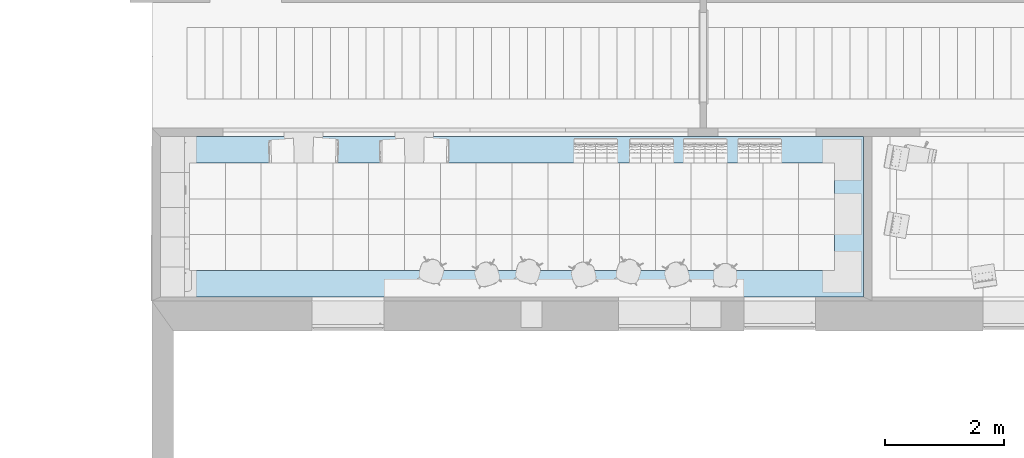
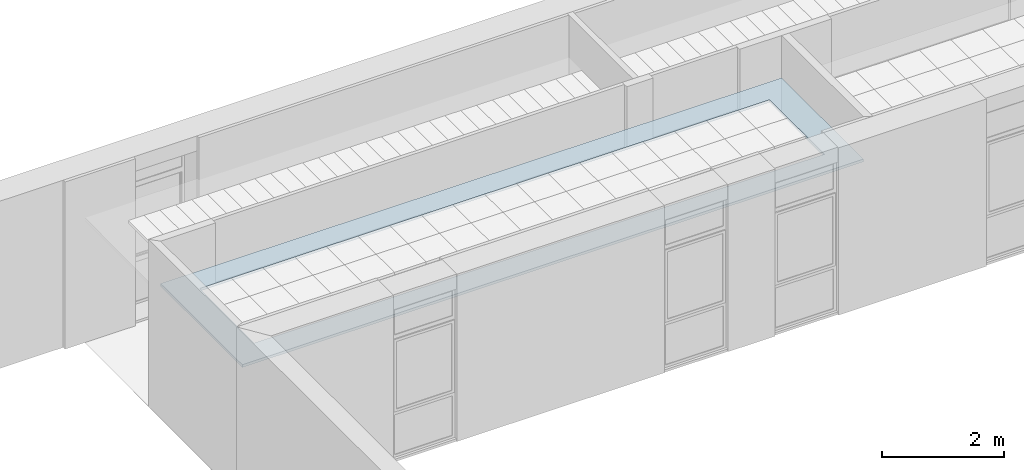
# One storey, part 6 of 68: 1 slab.
"""IFC2X3 building model written with IfcOpenShell, lengths in millimetres."""

from ifc_helpers import new_model, entity, si_unit, converted_unit, derived_unit, money_unit, direction, frame, origin_with_axes, place, context, subcontext, project, spatial, polyline, outline, extrude, material, layer, layer_set, layer_usage, type_object, element, save


model = new_model("IFC2X3")

# Units and contexts
model_context = context("Model", 3, precision=0.01, world=origin_with_axes(), true_north=direction((0.0, 1.0)))
body_context = subcontext(model_context, "Body", "Model", "MODEL_VIEW")
ifc_project = project(units=[si_unit("LENGTHUNIT", "METRE", prefix="MILLI"), si_unit("AREAUNIT", "SQUARE_METRE"), si_unit("VOLUMEUNIT", "CUBIC_METRE"), converted_unit("PLANEANGLEUNIT", "DEGREE", entity("IfcPlaneAngleMeasure", 0.0174532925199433), si_unit("PLANEANGLEUNIT", "RADIAN"), dimensions=[0, 0, 0, 0, 0, 0, 0]), money_unit("USD"), converted_unit("TIMEUNIT", "Year", entity("IfcTimeMeasure", 31557600.0), si_unit("TIMEUNIT", "SECOND"), dimensions=[0, 0, 1, 0, 0, 0, 0]), si_unit("MASSUNIT", "GRAM", prefix="KILO"), si_unit("THERMODYNAMICTEMPERATUREUNIT", "DEGREE_CELSIUS"), si_unit("LUMINOUSINTENSITYUNIT", "LUMEN"), si_unit("ENERGYUNIT", "JOULE", prefix="MEGA"), derived_unit("THERMALCONDUCTANCEUNIT", [(si_unit("POWERUNIT", "WATT"), 1), (si_unit("LENGTHUNIT", "METRE"), -1), (si_unit("THERMODYNAMICTEMPERATUREUNIT", "KELVIN"), -1)]), derived_unit("SPECIFICHEATCAPACITYUNIT", [(si_unit("ENERGYUNIT", "JOULE"), 1), (si_unit("MASSUNIT", "GRAM", prefix="KILO"), -1), (si_unit("THERMODYNAMICTEMPERATUREUNIT", "KELVIN"), -1)]), derived_unit("MASSDENSITYUNIT", [(si_unit("MASSUNIT", "GRAM", prefix="KILO"), 1), (si_unit("VOLUMEUNIT", "CUBIC_METRE"), -1)])], contexts=[model_context])

# Site, building, storey
site_placement = place(None, origin_with_axes())
site = spatial("IfcSite", under=ifc_project, at=site_placement, Name="Sitio", CompositionType="ELEMENT")
building_placement = place(site_placement, origin_with_axes())
building = spatial("IfcBuilding", under=site, at=building_placement, Name="Construcción", CompositionType="ELEMENT")
storey_placement = place(building_placement, origin_with_axes())
storey = spatial("IfcBuildingStorey", under=building, at=storey_placement, Name="PLANTA 1ª", CompositionType="ELEMENT", Elevation=0.0)

# Slab
ifc_material = material(Name="ARQ_CG064_CelRas_Guix_Continu")
ifc_layer = layer(ifc_material, 53.0, ventilated="UNKNOWN")
ifc_layer_set = layer_set([ifc_layer], Name="ARQ_CG064_CelRas_Guix_Continu 53")
ifc_layer_usage = layer_usage(ifc_layer_set, "AXIS3", "NEGATIVE", 53.0)
slab_type = type_object("IfcSlabType", Name="ARQ_CG064_CelRas_Guix_Continu 53", PredefinedType="NOTDEFINED")
slab_placement = place(storey_placement, frame((-27904.84818028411, 1554.853212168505, 2500.0), z_axis=(0.0, 0.0, 1.0), x_axis=(1.0, 0.0, 0.0)))
element("IfcSlab", 1, at=slab_placement, inside=storey, type_object=slab_type, material=ifc_layer_usage, Name="SLA - 013", PredefinedType="NOTDEFINED", context=body_context, shape_type="SweptSolid", body=[
    extrude(outline(polyline([(0.0, 0.0), (0.0, -2683.829035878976), (11768.41678023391, -2683.829035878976), (11768.41678023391, 0.0), (0.0, 0.0)]), holes=[polyline([(11284.20841224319, -2241.914541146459), (484.208412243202, -2241.914541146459), (484.208412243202, -441.9144947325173), (11284.20841224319, -441.9144947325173), (11284.20841224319, -2241.914541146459)])]), frame((0.0, 0.0, -53.0), z_axis=(0.0, 0.0, 1.0), x_axis=(1.0, 0.0, 0.0)), (0.0, 0.0, 1.0), 53.0),
])

save(model, "model.ifc")
